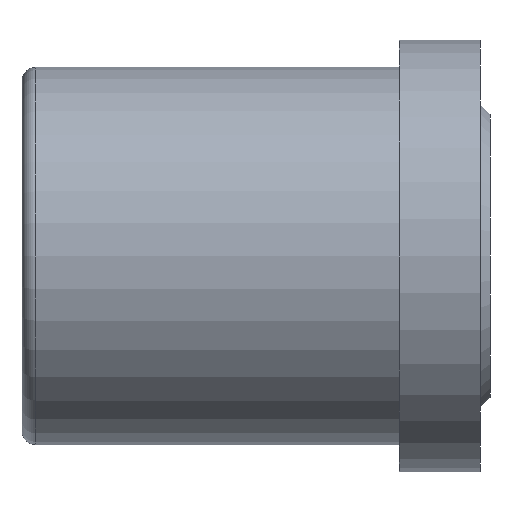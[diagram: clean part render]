
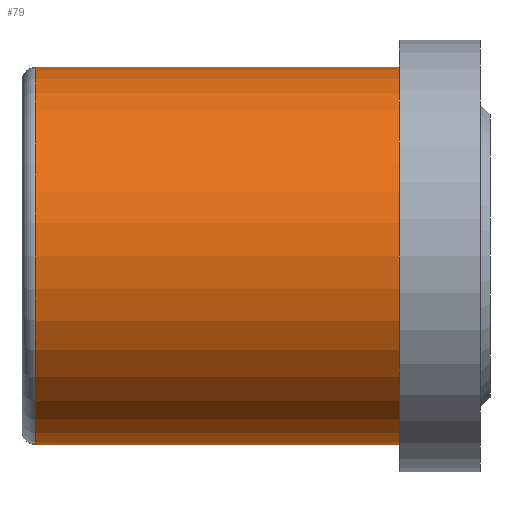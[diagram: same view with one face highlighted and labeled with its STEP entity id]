
A CAD part, left-side view. The second image highlights one B-rep face of the part: STEP entity #79.
In plain terms, the highlighted cylindrical face has radius 7 mm (diameter 14 mm), a partial arc.
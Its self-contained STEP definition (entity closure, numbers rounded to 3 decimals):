
#7 = CARTESIAN_POINT ( 'NONE',  ( 0., 13.5, 7. ) ) ;
#14 = LINE ( 'NONE', #190, #286 ) ;
#24 = CIRCLE ( 'NONE', #45, 7. ) ;
#43 = ORIENTED_EDGE ( 'NONE', *, *, #310, .F. ) ;
#45 = AXIS2_PLACEMENT_3D ( 'NONE', #115, #374, #152 ) ;
#67 = DIRECTION ( 'NONE',  ( 0., -1., 0. ) ) ;
#79 = ADVANCED_FACE ( 'NONE', ( #246 ), #154, .T. ) ;
#101 = DIRECTION ( 'NONE',  ( 0., 0., -1. ) ) ;
#107 = CARTESIAN_POINT ( 'NONE',  ( 0., 0., 0. ) ) ;
#115 = CARTESIAN_POINT ( 'NONE',  ( 0., 0., 0. ) ) ;
#124 = DIRECTION ( 'NONE',  ( 0., -1., 0. ) ) ;
#125 = VECTOR ( 'NONE', #149, 1000. ) ;
#149 = DIRECTION ( 'NONE',  ( 0., -1., 0. ) ) ;
#152 = DIRECTION ( 'NONE',  ( 0., 0., -1. ) ) ;
#154 = CYLINDRICAL_SURFACE ( 'NONE', #371, 7. ) ;
#190 = CARTESIAN_POINT ( 'NONE',  ( 0., 0., -7. ) ) ;
#193 = ORIENTED_EDGE ( 'NONE', *, *, #329, .F. ) ;
#206 = EDGE_LOOP ( 'NONE', ( #43, #216, #385, #193 ) ) ;
#216 = ORIENTED_EDGE ( 'NONE', *, *, #495, .T. ) ;
#226 = AXIS2_PLACEMENT_3D ( 'NONE', #344, #124, #383 ) ;
#246 = FACE_OUTER_BOUND ( 'NONE', #206, .T. ) ;
#261 = CARTESIAN_POINT ( 'NONE',  ( 0., 13.5, -7. ) ) ;
#268 = DIRECTION ( 'NONE',  ( 0., -1., 0. ) ) ;
#277 = CIRCLE ( 'NONE', #226, 7. ) ;
#286 = VECTOR ( 'NONE', #268, 1000. ) ;
#310 = EDGE_CURVE ( 'NONE', #446, #486, #322, .T. ) ;
#322 = LINE ( 'NONE', #370, #125 ) ;
#326 = VERTEX_POINT ( 'NONE', #261 ) ;
#329 = EDGE_CURVE ( 'NONE', #486, #433, #24, .T. ) ;
#342 = CARTESIAN_POINT ( 'NONE',  ( 0., 0., 7. ) ) ;
#344 = CARTESIAN_POINT ( 'NONE',  ( 0., 13.5, 0. ) ) ;
#370 = CARTESIAN_POINT ( 'NONE',  ( 0., 0., 7. ) ) ;
#371 = AXIS2_PLACEMENT_3D ( 'NONE', #107, #67, #101 ) ;
#374 = DIRECTION ( 'NONE',  ( 0., -1., 0. ) ) ;
#383 = DIRECTION ( 'NONE',  ( 0., 0., -1. ) ) ;
#385 = ORIENTED_EDGE ( 'NONE', *, *, #439, .T. ) ;
#433 = VERTEX_POINT ( 'NONE', #464 ) ;
#439 = EDGE_CURVE ( 'NONE', #326, #433, #14, .T. ) ;
#446 = VERTEX_POINT ( 'NONE', #7 ) ;
#464 = CARTESIAN_POINT ( 'NONE',  ( 0., 0., -7. ) ) ;
#486 = VERTEX_POINT ( 'NONE', #342 ) ;
#495 = EDGE_CURVE ( 'NONE', #446, #326, #277, .T. ) ;
